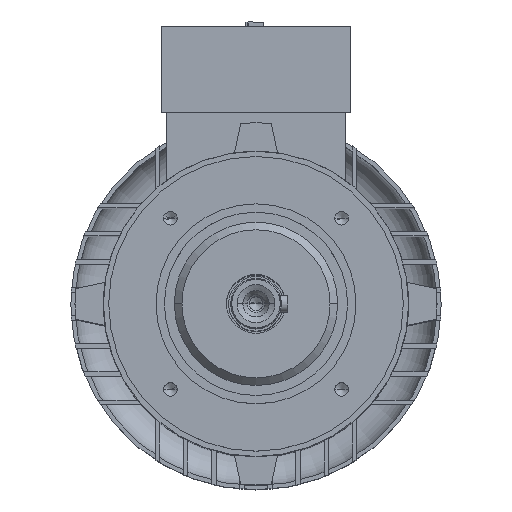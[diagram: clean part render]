
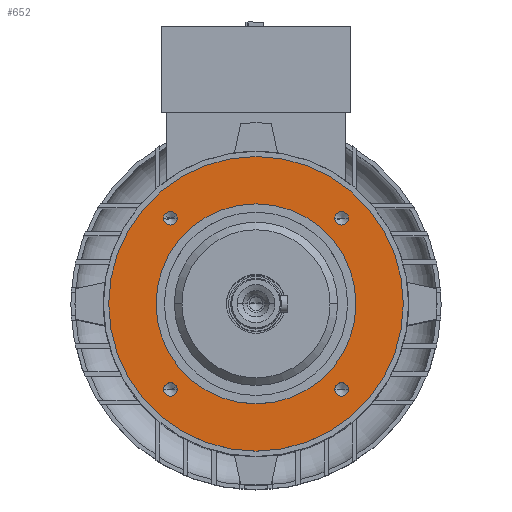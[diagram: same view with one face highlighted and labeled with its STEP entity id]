
A CAD part, top view. The second image highlights one B-rep face of the part: STEP entity #652.
In plain terms, the highlighted planar face has unit normal (0, 0, 1).
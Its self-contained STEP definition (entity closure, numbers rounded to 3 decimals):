
#222 = CIRCLE ( 'NONE', #4397, 70. ) ;
#230 = ORIENTED_EDGE ( 'NONE', *, *, #4245, .F. ) ;
#305 = VERTEX_POINT ( 'NONE', #5286 ) ;
#556 = DIRECTION ( 'NONE',  ( 1., 0., 0. ) ) ;
#652 = ADVANCED_FACE ( 'NONE', ( #7251, #3905, #5742, #6251, #1041, #6916 ), #10664, .T. ) ;
#771 = DIRECTION ( 'NONE',  ( 1., 0., 0. ) ) ;
#948 = CARTESIAN_POINT ( 'NONE',  ( 0., 0., 118.5 ) ) ;
#1041 = FACE_BOUND ( 'NONE', #11965, .T. ) ;
#1078 = EDGE_CURVE ( 'NONE', #10685, #5563, #1352, .T. ) ;
#1352 = CIRCLE ( 'NONE', #5965, 3.25 ) ;
#1409 = CIRCLE ( 'NONE', #3717, 3.25 ) ;
#1763 = CARTESIAN_POINT ( 'NONE',  ( 0., 0., 118.5 ) ) ;
#1808 = ORIENTED_EDGE ( 'NONE', *, *, #5370, .F. ) ;
#1929 = AXIS2_PLACEMENT_3D ( 'NONE', #8119, #5815, #556 ) ;
#1993 = CARTESIAN_POINT ( 'NONE',  ( -40.659, -40.659, 118.5 ) ) ;
#2070 = DIRECTION ( 'NONE',  ( -1., 0., 0. ) ) ;
#2129 = CIRCLE ( 'NONE', #4421, 3.25 ) ;
#2179 = DIRECTION ( 'NONE',  ( 1., 0., 0. ) ) ;
#2216 = DIRECTION ( 'NONE',  ( 0., 0., -1. ) ) ;
#2262 = EDGE_LOOP ( 'NONE', ( #1808, #11731 ) ) ;
#2540 = CIRCLE ( 'NONE', #1929, 3.25 ) ;
#2692 = DIRECTION ( 'NONE',  ( 1., 0., 0. ) ) ;
#2771 = CIRCLE ( 'NONE', #6667, 3.25 ) ;
#2773 = VERTEX_POINT ( 'NONE', #11232 ) ;
#2912 = DIRECTION ( 'NONE',  ( 0., 0., -1. ) ) ;
#2948 = DIRECTION ( 'NONE',  ( -1., 0., 0. ) ) ;
#2985 = EDGE_CURVE ( 'NONE', #6365, #305, #222, .T. ) ;
#3390 = EDGE_LOOP ( 'NONE', ( #12627, #7728 ) ) ;
#3470 = ORIENTED_EDGE ( 'NONE', *, *, #11598, .F. ) ;
#3717 = AXIS2_PLACEMENT_3D ( 'NONE', #12989, #7537, #2179 ) ;
#3905 = FACE_BOUND ( 'NONE', #3390, .T. ) ;
#3918 = AXIS2_PLACEMENT_3D ( 'NONE', #6091, #8329, #771 ) ;
#4019 = AXIS2_PLACEMENT_3D ( 'NONE', #7508, #4437, #5479 ) ;
#4066 = DIRECTION ( 'NONE',  ( 1., 0., 0. ) ) ;
#4245 = EDGE_CURVE ( 'NONE', #8984, #10367, #13905, .T. ) ;
#4397 = AXIS2_PLACEMENT_3D ( 'NONE', #948, #6265, #2070 ) ;
#4421 = AXIS2_PLACEMENT_3D ( 'NONE', #12340, #5936, #2692 ) ;
#4437 = DIRECTION ( 'NONE',  ( 0., 0., -1. ) ) ;
#4478 = CARTESIAN_POINT ( 'NONE',  ( 40.659, -40.659, 118.5 ) ) ;
#4581 = AXIS2_PLACEMENT_3D ( 'NONE', #5347, #6434, #7602 ) ;
#5173 = CARTESIAN_POINT ( 'NONE',  ( -37.409, 40.659, 118.5 ) ) ;
#5235 = CARTESIAN_POINT ( 'NONE',  ( -43.909, -40.659, 118.5 ) ) ;
#5249 = CARTESIAN_POINT ( 'NONE',  ( 70., 0., 118.5 ) ) ;
#5286 = CARTESIAN_POINT ( 'NONE',  ( -70., 0., 118.5 ) ) ;
#5347 = CARTESIAN_POINT ( 'NONE',  ( 40.659, 40.659, 118.5 ) ) ;
#5370 = EDGE_CURVE ( 'NONE', #5563, #10685, #6415, .T. ) ;
#5408 = CIRCLE ( 'NONE', #12841, 47.5 ) ;
#5435 = CARTESIAN_POINT ( 'NONE',  ( 37.409, -40.659, 118.5 ) ) ;
#5479 = DIRECTION ( 'NONE',  ( -1., 0., 0. ) ) ;
#5563 = VERTEX_POINT ( 'NONE', #7776 ) ;
#5572 = DIRECTION ( 'NONE',  ( 1., 0., 0. ) ) ;
#5742 = FACE_BOUND ( 'NONE', #9015, .T. ) ;
#5815 = DIRECTION ( 'NONE',  ( 0., 0., 1. ) ) ;
#5887 = ORIENTED_EDGE ( 'NONE', *, *, #12608, .F. ) ;
#5936 = DIRECTION ( 'NONE',  ( 0., 0., 1. ) ) ;
#5958 = EDGE_LOOP ( 'NONE', ( #5887, #230 ) ) ;
#5965 = AXIS2_PLACEMENT_3D ( 'NONE', #4478, #11973, #5572 ) ;
#5984 = CIRCLE ( 'NONE', #11881, 47.5 ) ;
#6090 = CIRCLE ( 'NONE', #4581, 3.25 ) ;
#6091 = CARTESIAN_POINT ( 'NONE',  ( 40.659, -40.659, 118.5 ) ) ;
#6106 = CARTESIAN_POINT ( 'NONE',  ( 37.409, 40.659, 118.5 ) ) ;
#6130 = DIRECTION ( 'NONE',  ( 0., 0., 1. ) ) ;
#6168 = ORIENTED_EDGE ( 'NONE', *, *, #12913, .F. ) ;
#6251 = FACE_BOUND ( 'NONE', #2262, .T. ) ;
#6265 = DIRECTION ( 'NONE',  ( 0., 0., -1. ) ) ;
#6365 = VERTEX_POINT ( 'NONE', #5249 ) ;
#6415 = CIRCLE ( 'NONE', #3918, 3.25 ) ;
#6434 = DIRECTION ( 'NONE',  ( 0., 0., 1. ) ) ;
#6437 = EDGE_CURVE ( 'NONE', #305, #6365, #7389, .T. ) ;
#6451 = CARTESIAN_POINT ( 'NONE',  ( 0., 0., 118.5 ) ) ;
#6657 = EDGE_CURVE ( 'NONE', #9393, #2773, #2540, .T. ) ;
#6667 = AXIS2_PLACEMENT_3D ( 'NONE', #10277, #12434, #10179 ) ;
#6916 = FACE_OUTER_BOUND ( 'NONE', #8068, .T. ) ;
#7251 = FACE_BOUND ( 'NONE', #5958, .T. ) ;
#7389 = CIRCLE ( 'NONE', #4019, 70. ) ;
#7508 = CARTESIAN_POINT ( 'NONE',  ( 0., 0., 118.5 ) ) ;
#7537 = DIRECTION ( 'NONE',  ( 0., 0., 1. ) ) ;
#7602 = DIRECTION ( 'NONE',  ( 1., 0., 0. ) ) ;
#7728 = ORIENTED_EDGE ( 'NONE', *, *, #13107, .F. ) ;
#7776 = CARTESIAN_POINT ( 'NONE',  ( 43.909, -40.659, 118.5 ) ) ;
#8067 = ORIENTED_EDGE ( 'NONE', *, *, #2985, .F. ) ;
#8068 = EDGE_LOOP ( 'NONE', ( #9701, #8067 ) ) ;
#8073 = CARTESIAN_POINT ( 'NONE',  ( 43.909, 40.659, 118.5 ) ) ;
#8119 = CARTESIAN_POINT ( 'NONE',  ( -40.659, 40.659, 118.5 ) ) ;
#8236 = VERTEX_POINT ( 'NONE', #8073 ) ;
#8329 = DIRECTION ( 'NONE',  ( 0., 0., 1. ) ) ;
#8984 = VERTEX_POINT ( 'NONE', #5235 ) ;
#8991 = AXIS2_PLACEMENT_3D ( 'NONE', #13771, #9494, #13855 ) ;
#9015 = EDGE_LOOP ( 'NONE', ( #3470, #6168 ) ) ;
#9246 = CARTESIAN_POINT ( 'NONE',  ( -37.409, -40.659, 118.5 ) ) ;
#9393 = VERTEX_POINT ( 'NONE', #5173 ) ;
#9494 = DIRECTION ( 'NONE',  ( 0., 0., 1. ) ) ;
#9701 = ORIENTED_EDGE ( 'NONE', *, *, #6437, .F. ) ;
#9729 = DIRECTION ( 'NONE',  ( -1., 0., 0. ) ) ;
#10179 = DIRECTION ( 'NONE',  ( 1., 0., 0. ) ) ;
#10268 = VERTEX_POINT ( 'NONE', #10347 ) ;
#10277 = CARTESIAN_POINT ( 'NONE',  ( -40.659, -40.659, 118.5 ) ) ;
#10347 = CARTESIAN_POINT ( 'NONE',  ( -47.5, 0., 118.5 ) ) ;
#10367 = VERTEX_POINT ( 'NONE', #9246 ) ;
#10664 = PLANE ( 'NONE',  #8991 ) ;
#10685 = VERTEX_POINT ( 'NONE', #5435 ) ;
#10980 = AXIS2_PLACEMENT_3D ( 'NONE', #1993, #6130, #4066 ) ;
#11026 = ORIENTED_EDGE ( 'NONE', *, *, #11038, .T. ) ;
#11038 = EDGE_CURVE ( 'NONE', #11496, #10268, #5408, .T. ) ;
#11232 = CARTESIAN_POINT ( 'NONE',  ( -43.909, 40.659, 118.5 ) ) ;
#11496 = VERTEX_POINT ( 'NONE', #12885 ) ;
#11598 = EDGE_CURVE ( 'NONE', #8236, #13399, #6090, .T. ) ;
#11731 = ORIENTED_EDGE ( 'NONE', *, *, #1078, .F. ) ;
#11856 = ORIENTED_EDGE ( 'NONE', *, *, #12123, .T. ) ;
#11881 = AXIS2_PLACEMENT_3D ( 'NONE', #6451, #2216, #9729 ) ;
#11965 = EDGE_LOOP ( 'NONE', ( #11856, #11026 ) ) ;
#11973 = DIRECTION ( 'NONE',  ( 0., 0., 1. ) ) ;
#12123 = EDGE_CURVE ( 'NONE', #10268, #11496, #5984, .T. ) ;
#12340 = CARTESIAN_POINT ( 'NONE',  ( -40.659, 40.659, 118.5 ) ) ;
#12434 = DIRECTION ( 'NONE',  ( 0., 0., 1. ) ) ;
#12608 = EDGE_CURVE ( 'NONE', #10367, #8984, #2771, .T. ) ;
#12627 = ORIENTED_EDGE ( 'NONE', *, *, #6657, .F. ) ;
#12841 = AXIS2_PLACEMENT_3D ( 'NONE', #1763, #2912, #2948 ) ;
#12885 = CARTESIAN_POINT ( 'NONE',  ( 47.5, 0., 118.5 ) ) ;
#12913 = EDGE_CURVE ( 'NONE', #13399, #8236, #1409, .T. ) ;
#12989 = CARTESIAN_POINT ( 'NONE',  ( 40.659, 40.659, 118.5 ) ) ;
#13107 = EDGE_CURVE ( 'NONE', #2773, #9393, #2129, .T. ) ;
#13399 = VERTEX_POINT ( 'NONE', #6106 ) ;
#13771 = CARTESIAN_POINT ( 'NONE',  ( 0., 70., 118.5 ) ) ;
#13855 = DIRECTION ( 'NONE',  ( 1., 0., 0. ) ) ;
#13905 = CIRCLE ( 'NONE', #10980, 3.25 ) ;
